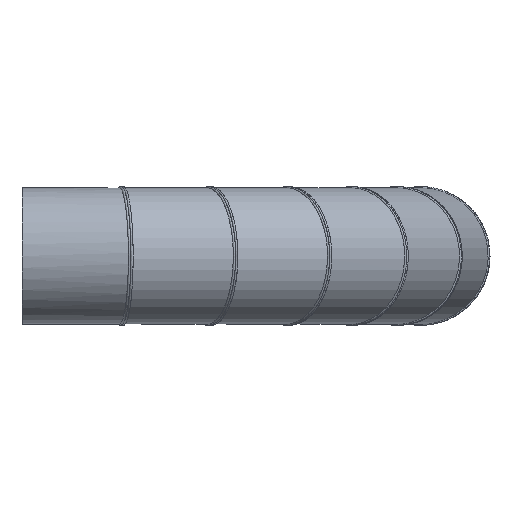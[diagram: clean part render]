
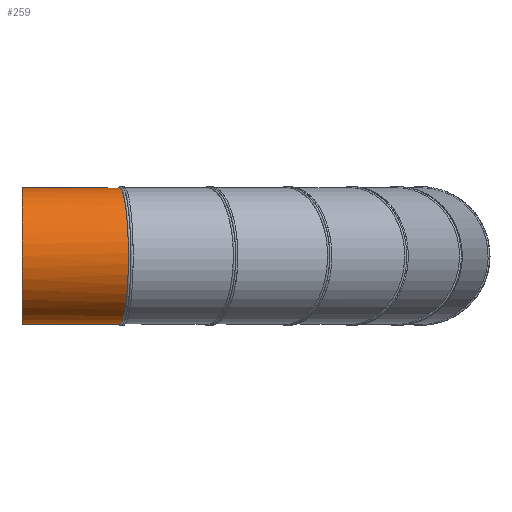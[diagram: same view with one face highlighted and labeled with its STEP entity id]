
A CAD part, front view. The second image highlights one B-rep face of the part: STEP entity #259.
In plain terms, the highlighted cylindrical face has radius 225 mm (diameter 450 mm), a full revolution.
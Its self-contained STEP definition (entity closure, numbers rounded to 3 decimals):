
#18=CIRCLE('',#310,225.);
#113=ORIENTED_EDGE('',*,*,#149,.T.);
#114=ORIENTED_EDGE('',*,*,#142,.F.);
#142=EDGE_CURVE('',#164,#164,#18,.T.);
#149=EDGE_CURVE('',#171,#171,#178,.T.);
#164=VERTEX_POINT('',#1747);
#171=VERTEX_POINT('',#1853);
#178=B_SPLINE_CURVE_WITH_KNOTS('',3,(#1762,#1763,#1764,#1765,#1766,#1767,
#1768,#1769,#1770,#1771,#1772,#1773,#1774,#1775,#1776,#1777,#1778,#1779,
#1780,#1781,#1782,#1783,#1784,#1785,#1786,#1787,#1788,#1789,#1790,#1791,
#1792,#1793,#1794,#1795,#1796,#1797,#1798,#1799,#1800,#1801,#1802,#1803,
#1804,#1805,#1806,#1807,#1808,#1809,#1810,#1811,#1812,#1813,#1814,#1815,
#1816,#1817,#1818,#1819,#1820,#1821,#1822,#1823,#1824,#1825,#1826,#1827,
#1828,#1829,#1830,#1831,#1832,#1833,#1834,#1835,#1836,#1837,#1838,#1839,
#1840,#1841,#1842,#1843,#1844,#1845,#1846,#1847,#1848,#1849,#1850,#1851,
#1852),.UNSPECIFIED.,.T.,.F.,(1,1,1,1,1,1,1,1,1,1,1,1,1,1,1,1,1,1,1,1,1,
1,1,1,1,1,1,1,1,1,1,1,1,1,1,1,1,1,1,1,1,1,1,1,1,1,1,1,1,1,1,1,1,1,1,1,1,
1,1,1,1,1,1,1,1,1,1,1,1,1,1,1,1,1,1,1,1,1,1,1,1,1,1,1,1,1,1,1,1,1,1,1,1,
1,1),(-0.056,-0.045,-0.022,0.,
0.022,0.033,0.045,0.067,
0.078,0.089,0.1,0.111,
0.134,0.156,0.178,0.201,
0.212,0.223,0.234,0.245,
0.256,0.267,0.29,0.312,
0.323,0.334,0.356,0.379,
0.39,0.401,0.423,0.446,
0.468,0.479,0.49,0.501,
0.512,0.535,0.557,0.579,
0.59,0.602,0.624,0.646,
0.657,0.668,0.691,0.713,
0.724,0.735,0.746,0.757,
0.769,0.78,0.802,0.824,
0.847,0.869,0.88,0.891,
0.913,0.936,0.958,0.969,
0.98,0.991,1.003,1.025,1.047,
1.069,1.092,1.103,1.114,1.125,
1.136,1.147,1.158,1.181,1.203,
1.225,1.236,1.248,1.259,1.27,
1.292,1.314,1.337,1.359,1.37,
1.381,1.404,1.426,1.448,1.459,
1.47),.UNSPECIFIED.);
#201=EDGE_LOOP('',(#113));
#202=EDGE_LOOP('',(#114));
#229=FACE_BOUND('',#201,.T.);
#230=FACE_BOUND('',#202,.T.);
#243=CYLINDRICAL_SURFACE('',#318,225.);
#259=ADVANCED_FACE('',(#229,#230),#243,.T.);
#310=AXIS2_PLACEMENT_3D('',#1746,#370,#371);
#318=AXIS2_PLACEMENT_3D('',#1761,#386,#387);
#370=DIRECTION('',(0.,1.,0.));
#371=DIRECTION('',(-1.,0.,0.));
#386=DIRECTION('',(0.,1.,0.));
#387=DIRECTION('',(-1.,0.,0.));
#1746=CARTESIAN_POINT('',(1136.49,180.,0.));
#1747=CARTESIAN_POINT('',(911.49,180.,0.));
#1761=CARTESIAN_POINT('',(1136.49,-179.244,0.));
#1762=CARTESIAN_POINT('',(912.225,-112.062,-22.258));
#1763=CARTESIAN_POINT('',(911.123,-111.917,-0.004));
#1764=CARTESIAN_POINT('',(912.043,-112.038,18.56));
#1765=CARTESIAN_POINT('',(913.869,-112.278,33.255));
#1766=CARTESIAN_POINT('',(916.427,-112.614,47.892));
#1767=CARTESIAN_POINT('',(920.05,-113.09,62.247));
#1768=CARTESIAN_POINT('',(924.738,-113.706,76.336));
#1769=CARTESIAN_POINT('',(928.76,-114.234,86.682));
#1770=CARTESIAN_POINT('',(933.285,-114.829,96.819));
#1771=CARTESIAN_POINT('',(939.995,-115.71,110.047));
#1772=CARTESIAN_POINT('',(949.493,-116.958,125.766));
#1773=CARTESIAN_POINT('',(962.629,-118.684,143.389));
#1774=CARTESIAN_POINT('',(977.591,-120.65,159.812));
#1775=CARTESIAN_POINT('',(991.268,-122.448,172.136));
#1776=CARTESIAN_POINT('',(1002.946,-123.983,181.195));
#1777=CARTESIAN_POINT('',(1011.998,-125.174,187.529));
#1778=CARTESIAN_POINT('',(1021.335,-126.401,193.404));
#1779=CARTESIAN_POINT('',(1030.974,-127.669,198.827));
#1780=CARTESIAN_POINT('',(1040.862,-128.969,203.766));
#1781=CARTESIAN_POINT('',(1054.308,-130.738,209.68));
#1782=CARTESIAN_POINT('',(1071.697,-133.025,215.845));
#1783=CARTESIAN_POINT('',(1089.505,-135.368,220.255));
#1784=CARTESIAN_POINT('',(1104.035,-137.281,222.738));
#1785=CARTESIAN_POINT('',(1118.577,-139.195,224.494));
#1786=CARTESIAN_POINT('',(1136.737,-141.585,225.351));
#1787=CARTESIAN_POINT('',(1154.889,-143.975,224.454));
#1788=CARTESIAN_POINT('',(1169.395,-145.885,222.672));
#1789=CARTESIAN_POINT('',(1183.919,-147.798,220.16));
#1790=CARTESIAN_POINT('',(1201.718,-150.143,215.714));
#1791=CARTESIAN_POINT('',(1222.567,-152.89,208.275));
#1792=CARTESIAN_POINT('',(1239.178,-155.079,200.437));
#1793=CARTESIAN_POINT('',(1252.032,-156.773,193.173));
#1794=CARTESIAN_POINT('',(1261.362,-158.003,187.277));
#1795=CARTESIAN_POINT('',(1270.392,-159.193,180.932));
#1796=CARTESIAN_POINT('',(1282.049,-160.73,171.851));
#1797=CARTESIAN_POINT('',(1295.708,-162.531,159.494));
#1798=CARTESIAN_POINT('',(1310.639,-164.5,143.042));
#1799=CARTESIAN_POINT('',(1321.628,-165.95,128.237));
#1800=CARTESIAN_POINT('',(1329.564,-166.997,115.709));
#1801=CARTESIAN_POINT('',(1336.817,-167.953,102.9));
#1802=CARTESIAN_POINT('',(1344.642,-168.986,86.362));
#1803=CARTESIAN_POINT('',(1350.828,-169.802,69.131));
#1804=CARTESIAN_POINT('',(1354.778,-170.323,54.925));
#1805=CARTESIAN_POINT('',(1358.046,-170.755,40.427));
#1806=CARTESIAN_POINT('',(1360.766,-171.113,22.138));
#1807=CARTESIAN_POINT('',(1361.676,-171.234,3.566));
#1808=CARTESIAN_POINT('',(1361.302,-171.184,-11.225));
#1809=CARTESIAN_POINT('',(1360.473,-171.075,-22.319));
#1810=CARTESIAN_POINT('',(1359.095,-170.893,-33.369));
#1811=CARTESIAN_POINT('',(1357.179,-170.64,-44.3));
#1812=CARTESIAN_POINT('',(1354.726,-170.316,-55.131));
#1813=CARTESIAN_POINT('',(1350.733,-169.789,-69.436));
#1814=CARTESIAN_POINT('',(1344.462,-168.962,-86.82));
#1815=CARTESIAN_POINT('',(1334.873,-167.697,-106.922));
#1816=CARTESIAN_POINT('',(1323.531,-166.201,-125.699));
#1817=CARTESIAN_POINT('',(1312.615,-164.761,-140.353));
#1818=CARTESIAN_POINT('',(1303.007,-163.494,-151.453));
#1819=CARTESIAN_POINT('',(1292.781,-162.145,-162.154));
#1820=CARTESIAN_POINT('',(1279.115,-160.343,-174.489));
#1821=CARTESIAN_POINT('',(1261.271,-157.991,-187.664));
#1822=CARTESIAN_POINT('',(1245.481,-155.91,-197.081));
#1823=CARTESIAN_POINT('',(1232.285,-154.171,-203.689));
#1824=CARTESIAN_POINT('',(1222.198,-152.841,-208.134));
#1825=CARTESIAN_POINT('',(1211.909,-151.486,-212.08));
#1826=CARTESIAN_POINT('',(1197.899,-149.64,-216.677));
#1827=CARTESIAN_POINT('',(1180.091,-147.294,-221.103));
#1828=CARTESIAN_POINT('',(1158.192,-144.41,-224.311));
#1829=CARTESIAN_POINT('',(1136.384,-141.539,-225.35));
#1830=CARTESIAN_POINT('',(1118.24,-139.15,-224.465));
#1831=CARTESIAN_POINT('',(1103.759,-137.244,-222.697));
#1832=CARTESIAN_POINT('',(1092.89,-135.814,-220.827));
#1833=CARTESIAN_POINT('',(1082.117,-134.396,-218.424));
#1834=CARTESIAN_POINT('',(1071.501,-133.,-215.504));
#1835=CARTESIAN_POINT('',(1061.025,-131.621,-212.063));
#1836=CARTESIAN_POINT('',(1047.257,-129.81,-206.778));
#1837=CARTESIAN_POINT('',(1030.64,-127.625,-198.955));
#1838=CARTESIAN_POINT('',(1011.611,-125.123,-187.598));
#1839=CARTESIAN_POINT('',(996.807,-123.176,-176.66));
#1840=CARTESIAN_POINT('',(985.597,-121.703,-167.024));
#1841=CARTESIAN_POINT('',(977.583,-120.649,-159.418));
#1842=CARTESIAN_POINT('',(969.943,-119.645,-151.42));
#1843=CARTESIAN_POINT('',(960.256,-118.372,-140.221));
#1844=CARTESIAN_POINT('',(949.252,-116.926,-125.425));
#1845=CARTESIAN_POINT('',(937.793,-115.421,-106.336));
#1846=CARTESIAN_POINT('',(928.393,-114.186,-86.489));
#1847=CARTESIAN_POINT('',(922.198,-113.372,-69.269));
#1848=CARTESIAN_POINT('',(918.247,-112.853,-55.098));
#1849=CARTESIAN_POINT('',(914.97,-112.422,-40.625));
#1850=CARTESIAN_POINT('',(912.225,-112.062,-22.258));
#1851=CARTESIAN_POINT('',(911.123,-111.917,-0.004));
#1852=CARTESIAN_POINT('',(912.043,-112.038,18.56));
#1853=CARTESIAN_POINT('',(911.49,-111.965,0.));
